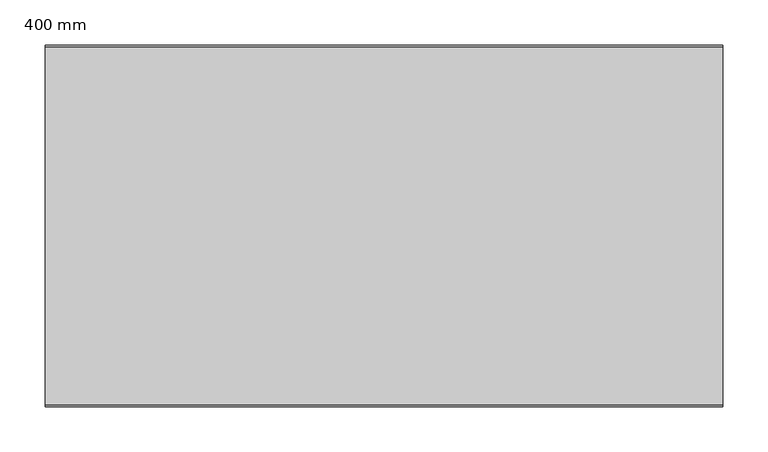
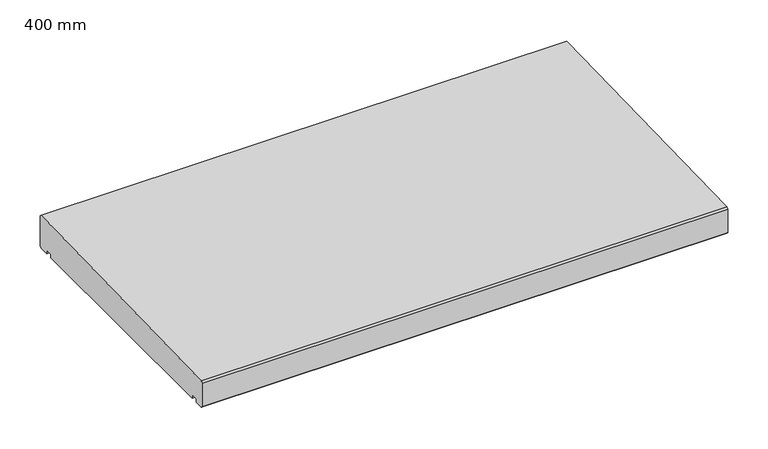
"""IFC4 building model written with IfcOpenShell, lengths in millimetres: proxy geometry, 400_35_NS_afdekker_éénzijdig_afwaterend : 400 mm."""

from ifc_helpers import new_model, si_unit, frame, origin, place, context, project, spatial, polyline, outline, extrude, source, transform, mapped, element, save


def proxy_400_mm_29d6a0fe(model_context):
    return source(origin(), model_context, "Body", "SweptSolid", [
        extrude(outline(polyline([(400.0, 2.0), (398.0, 0.0), (385.0, 0.0), (385.0, 5.0), (375.0, 5.0), (375.0, 0.0), (25.0, 0.0), (25.0, 5.0), (15.0, 5.0), (15.0, 0.0), (2.0, 0.0), (0.0, 2.0), (0.0, 38.0), (2.0, 40.0), (398.0, 50.0), (400.0, 48.0), (400.0, 2.0)])), frame((-375.0, 0.0, 0.0), z_axis=(1.0, 0.0, 0.0), x_axis=(0.0, 1.0, 0.0)), (0.0, 0.0, 1.0), 750.0),
    ])


if __name__ == "__main__":
    model = new_model("IFC4")
    model_context = context("Model", 3, world=origin())
    ifc_project = project(units=[si_unit("LENGTHUNIT", "METRE", prefix="MILLI")], contexts=[model_context])
    site = spatial("IfcSite", under=ifc_project)
    building = spatial("IfcBuilding", under=site)
    placement = place(None, origin())
    proxy_400_mm_shape = proxy_400_mm_29d6a0fe(model_context)
    element("IfcBuildingElementProxy", 1, Name="400_35_NS_afdekker_éénzijdig_afwaterend : 400 mm", ObjectType="400_35_NS_afdekker_éénzijdig_afwaterend : 400 mm", at=placement, inside=building, context=model_context, shape_type="MappedRepresentation", body=[
        mapped(proxy_400_mm_shape, transform((0.0, 0.0, 0.0), x_axis=(1.0, 0.0, 0.0), y_axis=(0.0, 1.0, 0.0), z_axis=(0.0, 0.0, 1.0))),
    ])
    save(model, "model.ifc")
